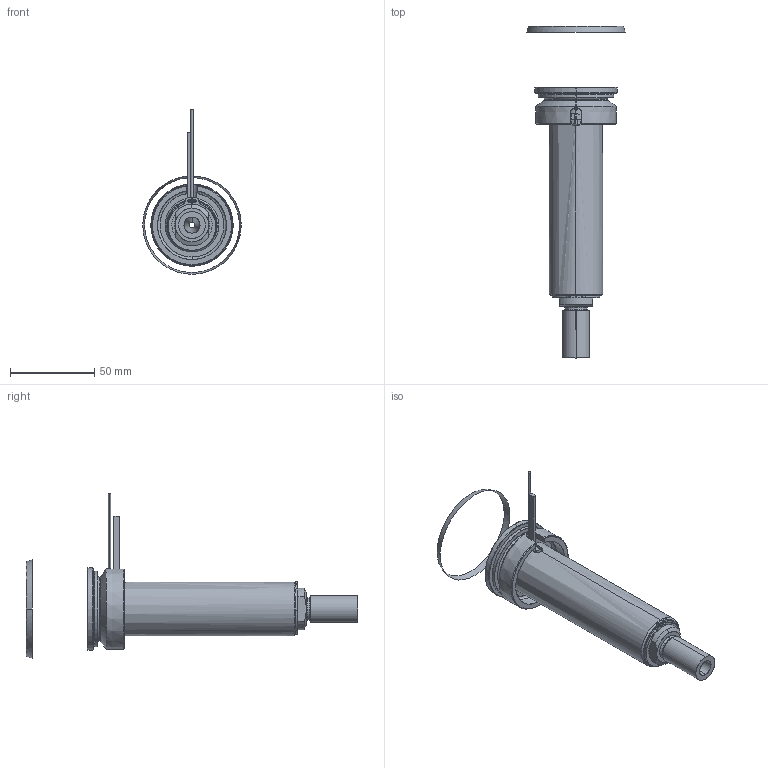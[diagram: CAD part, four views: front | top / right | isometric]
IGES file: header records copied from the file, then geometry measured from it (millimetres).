
Start section: SolidWorks IGES file using analytic representation for surfaces
Global section: file name: C:\Documents and Settings\ws-20\Desktop\TEMPORANEA\UGBE5003-S-A-P-5 [Ød-3.5 P-25 ØC-13].IGS; native system: SolidWorks 2012; preprocessor: SolidWorks 2012; author: ws-20; date: 120306.162338; units: millimetre
Bounding box: 58.57 x 197.44 x 97.91 mm (x, y, z)
Surface area: 53481 mm2 (no closed solid volume)
Topology: 0 solids, 0 shells, 110 faces, 2118 edges, 2118 vertices
Faces by surface type: revolution 67, bspline 43
